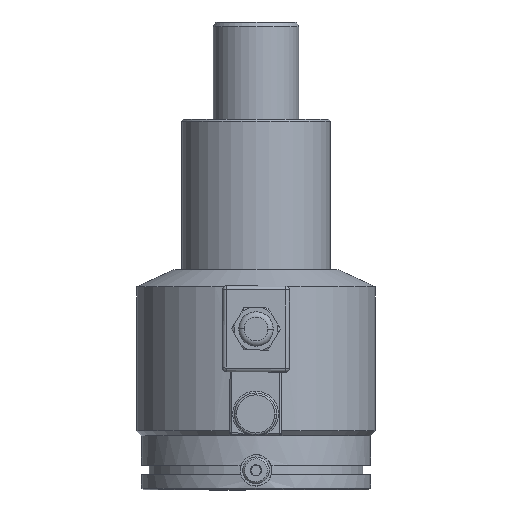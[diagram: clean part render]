
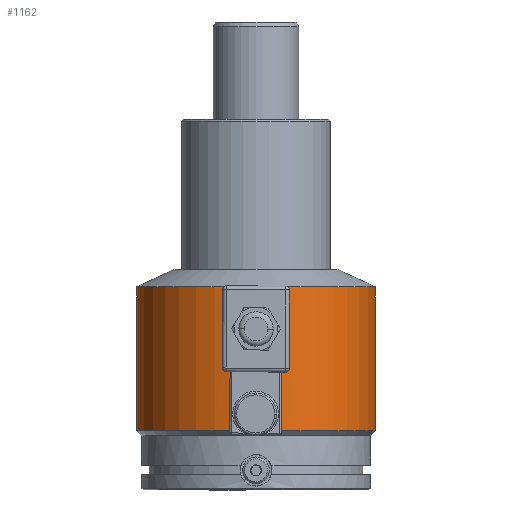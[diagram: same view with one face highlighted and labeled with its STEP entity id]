
A CAD part, front view. The second image highlights one B-rep face of the part: STEP entity #1162.
In plain terms, the highlighted cylindrical face has radius 62.5 mm (diameter 125 mm), a partial arc.
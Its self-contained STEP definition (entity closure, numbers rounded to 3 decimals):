
#959=CARTESIAN_POINT('Control Point',(-13.164,-61.098,60.491)) ;
#960=CARTESIAN_POINT('Control Point',(-11.949,-61.36,62.715)) ;
#961=CARTESIAN_POINT('Control Point',(-10.268,-61.69,64.675)) ;
#962=CARTESIAN_POINT('Control Point',(-8.198,-62.025,66.251)) ;
#963=CARTESIAN_POINT('Control Point',(-3.876,-62.485,68.263)) ;
#964=CARTESIAN_POINT('Control Point',(0.875,-62.552,68.506)) ;
#965=CARTESIAN_POINT('Control Point',(3.039,-62.48,68.224)) ;
#966=CARTESIAN_POINT('Control Point',(7.793,-62.112,66.705)) ;
#967=CARTESIAN_POINT('Control Point',(11.591,-61.468,63.426)) ;
#968=CARTESIAN_POINT('Control Point',(13.274,-61.09,61.1)) ;
#969=CARTESIAN_POINT('Control Point',(15.132,-60.644,56.575)) ;
#970=CARTESIAN_POINT('Control Point',(15.118,-60.643,51.728)) ;
#971=CARTESIAN_POINT('Control Point',(14.774,-60.732,49.734)) ;
#972=CARTESIAN_POINT('Control Point',(14.111,-60.894,47.842)) ;
#973=CARTESIAN_POINT('Control Point',(13.164,-61.098,46.109)) ;
#974=CARTESIAN_POINT('Vertex',(-13.164,-61.098,60.491)) ;
#976=CARTESIAN_POINT('Vertex',(13.164,-61.098,46.109)) ;
#1006=CARTESIAN_POINT('Control Point',(13.164,-61.098,46.109)) ;
#1007=CARTESIAN_POINT('Control Point',(11.949,-61.36,43.885)) ;
#1008=CARTESIAN_POINT('Control Point',(10.268,-61.69,41.925)) ;
#1009=CARTESIAN_POINT('Control Point',(8.198,-62.025,40.349)) ;
#1010=CARTESIAN_POINT('Control Point',(3.876,-62.485,38.337)) ;
#1011=CARTESIAN_POINT('Control Point',(-0.875,-62.552,38.094)) ;
#1012=CARTESIAN_POINT('Control Point',(-3.039,-62.48,38.376)) ;
#1013=CARTESIAN_POINT('Control Point',(-7.793,-62.112,39.895)) ;
#1014=CARTESIAN_POINT('Control Point',(-11.591,-61.468,43.174)) ;
#1015=CARTESIAN_POINT('Control Point',(-13.274,-61.09,45.5)) ;
#1016=CARTESIAN_POINT('Control Point',(-15.132,-60.644,50.025)) ;
#1017=CARTESIAN_POINT('Control Point',(-15.118,-60.643,54.872)) ;
#1018=CARTESIAN_POINT('Control Point',(-14.774,-60.732,56.866)) ;
#1019=CARTESIAN_POINT('Control Point',(-14.111,-60.894,58.758)) ;
#1020=CARTESIAN_POINT('Control Point',(-13.164,-61.098,60.491)) ;
#1077=CARTESIAN_POINT('Vertex',(62.5,0.,75.3)) ;
#1084=CARTESIAN_POINT('Vertex',(-62.5,0.,75.3)) ;
#1104=CARTESIAN_POINT('Axis2P3D Location',(0.,0.,75.3)) ;
#1116=CARTESIAN_POINT('Axis2P3D Location',(0.,0.,42.15)) ;
#1121=CARTESIAN_POINT('Line Origine',(62.5,0.,42.15)) ;
#1125=CARTESIAN_POINT('Vertex',(62.5,0.,0.)) ;
#1132=CARTESIAN_POINT('Vertex',(-62.5,0.,0.)) ;
#1135=CARTESIAN_POINT('Line Origine',(-62.5,0.,42.15)) ;
#1147=CARTESIAN_POINT('Axis2P3D Location',(0.,0.,0.)) ;
#1105=DIRECTION('Axis2P3D Direction',(0.,0.,1.)) ;
#1117=DIRECTION('Axis2P3D Direction',(0.,0.,1.)) ;
#1118=DIRECTION('Axis2P3D XDirection',(1.,0.,0.)) ;
#1122=DIRECTION('Vector Direction',(0.,0.,1.)) ;
#1136=DIRECTION('Vector Direction',(0.,0.,1.)) ;
#1148=DIRECTION('Axis2P3D Direction',(0.,0.,1.)) ;
#1106=AXIS2_PLACEMENT_3D('Circle Axis2P3D',#1104,#1105,$) ;
#1119=AXIS2_PLACEMENT_3D('Cylinder Axis2P3D',#1116,#1117,#1118) ;
#1149=AXIS2_PLACEMENT_3D('Circle Axis2P3D',#1147,#1148,$) ;
#1153=ORIENTED_EDGE('',*,*,#1139,.F.) ;
#1154=ORIENTED_EDGE('',*,*,#1151,.T.) ;
#1155=ORIENTED_EDGE('',*,*,#1127,.T.) ;
#1156=ORIENTED_EDGE('',*,*,#1108,.F.) ;
#1159=ORIENTED_EDGE('',*,*,#978,.T.) ;
#1160=ORIENTED_EDGE('',*,*,#1021,.T.) ;
#1161=FACE_BOUND('',#1158,.T.) ;
#1123=VECTOR('Line Direction',#1122,1.) ;
#1137=VECTOR('Line Direction',#1136,1.) ;
#1162=ADVANCED_FACE('',(#1157,#1161),#1120,.T.) ;
#958=B_SPLINE_CURVE_WITH_KNOTS('',5,(#959,#960,#961,#962,#963,#964,#965,#966,#967,#968,#969,#970,#971,#972,#973),.UNSPECIFIED.,.F.,.U.,(6,3,3,3,6),(0.,18.01,33.099,52.85,66.888),.UNSPECIFIED.) ;
#1005=B_SPLINE_CURVE_WITH_KNOTS('',5,(#1006,#1007,#1008,#1009,#1010,#1011,#1012,#1013,#1014,#1015,#1016,#1017,#1018,#1019,#1020),.UNSPECIFIED.,.F.,.U.,(6,3,3,3,6),(0.,18.01,33.099,52.85,66.888),.UNSPECIFIED.) ;
#1107=CIRCLE('generated circle',#1106,62.5) ;
#1150=CIRCLE('generated circle',#1149,62.5) ;
#1120=CYLINDRICAL_SURFACE('generated cylinder',#1119,62.5) ;
#978=EDGE_CURVE('',#975,#977,#958,.T.) ;
#1021=EDGE_CURVE('',#977,#975,#1005,.T.) ;
#1108=EDGE_CURVE('',#1085,#1078,#1107,.T.) ;
#1127=EDGE_CURVE('',#1126,#1078,#1124,.T.) ;
#1139=EDGE_CURVE('',#1133,#1085,#1138,.T.) ;
#1151=EDGE_CURVE('',#1133,#1126,#1150,.T.) ;
#1152=EDGE_LOOP('',(#1153,#1154,#1155,#1156)) ;
#1158=EDGE_LOOP('',(#1159,#1160)) ;
#1157=FACE_OUTER_BOUND('',#1152,.T.) ;
#1124=LINE('Line',#1121,#1123) ;
#1138=LINE('Line',#1135,#1137) ;
#975=VERTEX_POINT('',#974) ;
#977=VERTEX_POINT('',#976) ;
#1078=VERTEX_POINT('',#1077) ;
#1085=VERTEX_POINT('',#1084) ;
#1126=VERTEX_POINT('',#1125) ;
#1133=VERTEX_POINT('',#1132) ;
